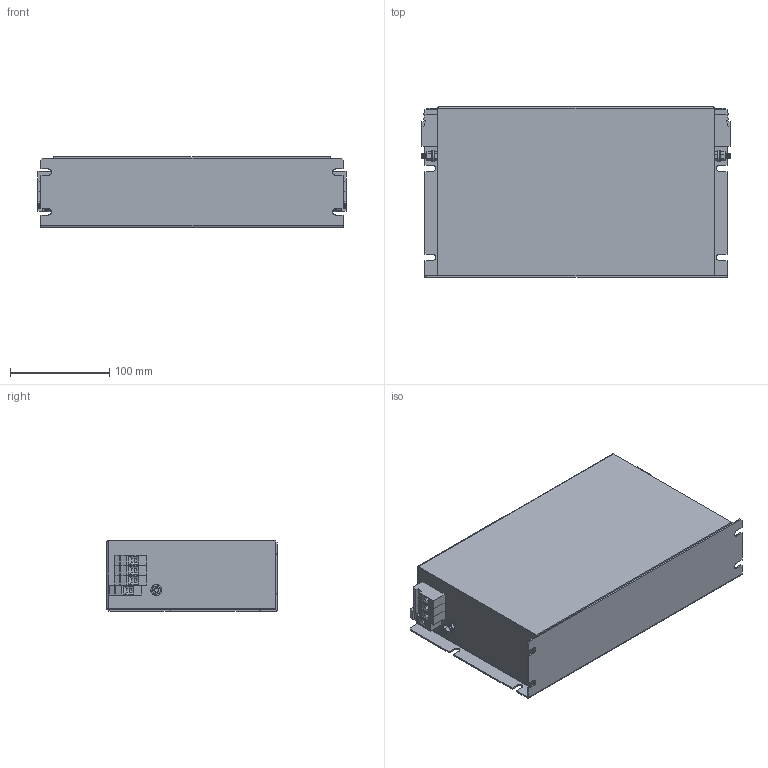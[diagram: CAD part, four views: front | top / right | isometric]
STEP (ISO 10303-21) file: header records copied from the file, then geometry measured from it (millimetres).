
FILE_DESCRIPTION (( 'STEP AP203' ), '1' );
FILE_NAME ('NF-K-4-30,42.STEP', '2015-09-01T16:18:58', ( 'User' ), ( 'Rasmi Electronics Ltd' ), 'SwSTEP 2.0', 'SolidWorks 2008', '' );
FILE_SCHEMA (( 'CONFIG_CONTROL_DESIGN' ));
Length unit declared in the file: millimetre
Products named in the file (7): R4 Case; M5x13 Earth post; NF-K-4-30,42; Flat Washer Narrow_AM_B18.22M - Plain washer, 5 mm, narrow; Hex Screw_AM_B18.6.7M - M5 x 0.8 x 13 Plain HHMS --13S; VDFK-6; Hex Nut Style 1_AM_B18.2.4.1M - Hex nut, Style 1,  M5 x 0.8 --D-N
Assembly tree (15 placements, depth 3):
  NF-K-4-30,42
    M5x13 Earth post  x2
      Flat Washer Narrow_AM_B18.22M - Plain washer, 5 mm, narrow
      Hex Nut Style 1_AM_B18.2.4.1M - Hex nut, Style 1,  M5 x 0.8 --D-N
      Hex Screw_AM_B18.6.7M - M5 x 0.8 x 13 Plain HHMS --13S
    VDFK-6  x8
    R4 Case
Bounding box: 312.6 x 172 x 71.5 mm (x, y, z)
Volume: 3413225.6 mm3; surface area: 227454.4 mm2
Topology: 17 solids, 17 shells, 822 faces, 2044 edges, 1288 vertices
Faces by surface type: plane 453, cylinder 191, cone 176, sphere 2
Entity records: 9476 total; most frequent: CARTESIAN_POINT 1602, DIRECTION 1539, ORIENTED_EDGE 1406, EDGE_CURVE 703, AXIS2_PLACEMENT_3D 579, VERTEX_POINT 442, VECTOR 381, LINE 381
